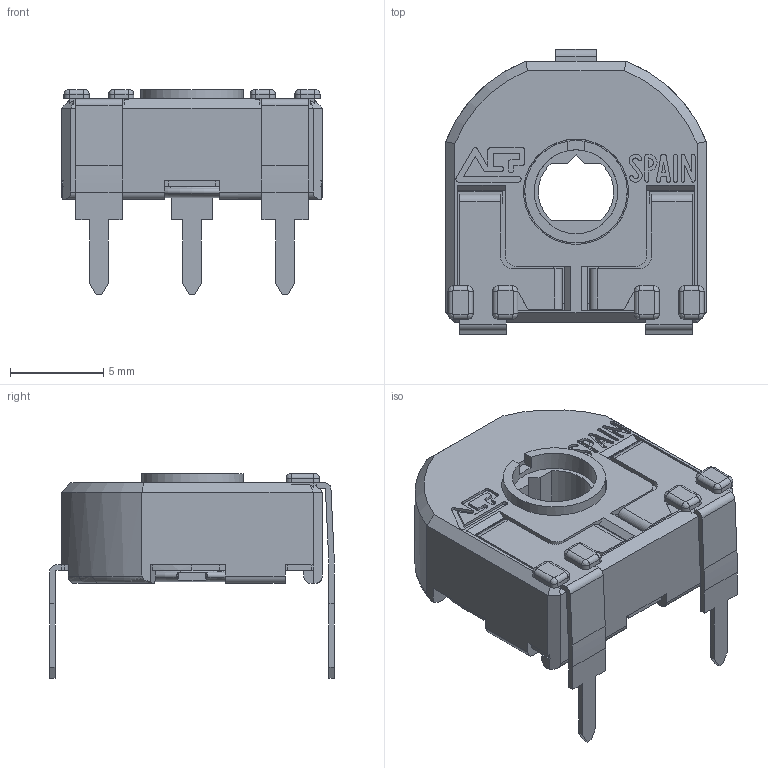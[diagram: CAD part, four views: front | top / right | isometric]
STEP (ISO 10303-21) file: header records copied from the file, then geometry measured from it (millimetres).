
FILE_DESCRIPTION(/* description */ (''),/* implementation_level */ '2;1');
FILE_NAME(/* name */ 'C:\Users\CEM\Desktop\ENVIAR\TRANSICION 3D CATALOGOS\CAR14KV15.stp',/* time_stamp */ '2025-09-22T09:51:45+02:00',/* author */ ('CEM'),/* organization */ (''),/* preprocessor_version */ 'ST-DEVELOPER v17',/* originating_system */ 'Autodesk Inventor 2018',/* authorisation */ '');
FILE_SCHEMA (('AUTOMOTIVE_DESIGN { 1 0 10303 214 3 1 1 }'));
Length unit declared in the file: millimetre
Products named in the file (1): CAR14KV15
Bounding box: 14 x 15.3 x 11 mm (x, y, z)
Volume: 548.3 mm3; surface area: 1553 mm2
Topology: 1 solids, 1 shells, 598 faces, 1745 edges, 1119 vertices
Faces by surface type: plane 407, cylinder 148, bspline 20, cone 14, torus 9
Full cylindrical faces by diameter (mm): 1.2 x2, 4.5 x1, 5.5 x1, 5.65 x1, 6.88 x1
Entity records: 20521 total; most frequent: CARTESIAN_POINT 3787, ORIENTED_EDGE 3490, DIRECTION 3280, EDGE_CURVE 1745, LINE 1292, VECTOR 1292, VERTEX_POINT 1119, AXIS2_PLACEMENT_3D 994
